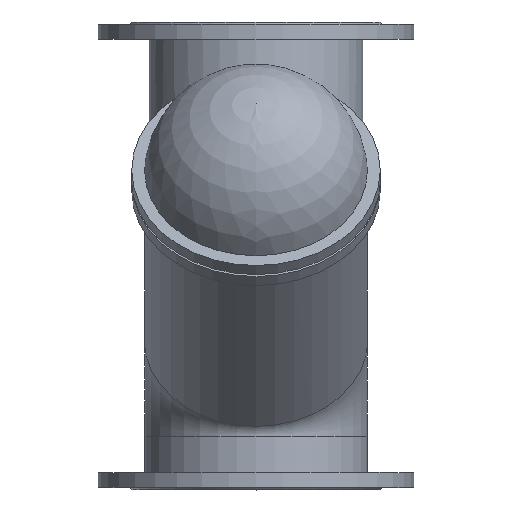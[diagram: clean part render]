
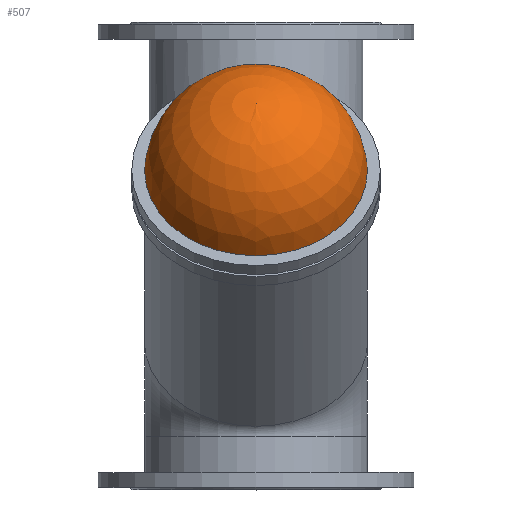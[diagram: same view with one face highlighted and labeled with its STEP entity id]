
A CAD part, top view. The second image highlights one B-rep face of the part: STEP entity #507.
In plain terms, the highlighted spherical face has radius 143.376 mm.
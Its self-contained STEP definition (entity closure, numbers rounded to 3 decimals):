
#507=ADVANCED_FACE('',(#1065),#1067,.T.);
#1065=FACE_OUTER_BOUND('',#1066,.T.);
#1066=EDGE_LOOP('',(#1249));
#1067=SPHERICAL_SURFACE('',#1068,143.376);
#1068=AXIS2_PLACEMENT_3D('',#1069,#1070,#1071);
#1069=CARTESIAN_POINT('',(0.,102.548,309.527));
#1070=DIRECTION('',(0.,0.643,0.766));
#1071=DIRECTION('',(0.,-0.766,0.643));
#1249=ORIENTED_EDGE('',*,*,#1338,.T.);
#1338=EDGE_CURVE('',#1511,#1511,#1512,.T.);
#1511=VERTEX_POINT('',#2297);
#1512=CIRCLE('',#2298,143.);
#2297=CARTESIAN_POINT('',(0.,-0.327,409.394));
#2298=AXIS2_PLACEMENT_3D('',#2299,#2300,#2301);
#2299=CARTESIAN_POINT('',(0.,109.218,317.475));
#2300=DIRECTION('',(0.,0.643,0.766));
#2301=DIRECTION('',(0.,-0.766,0.643));
